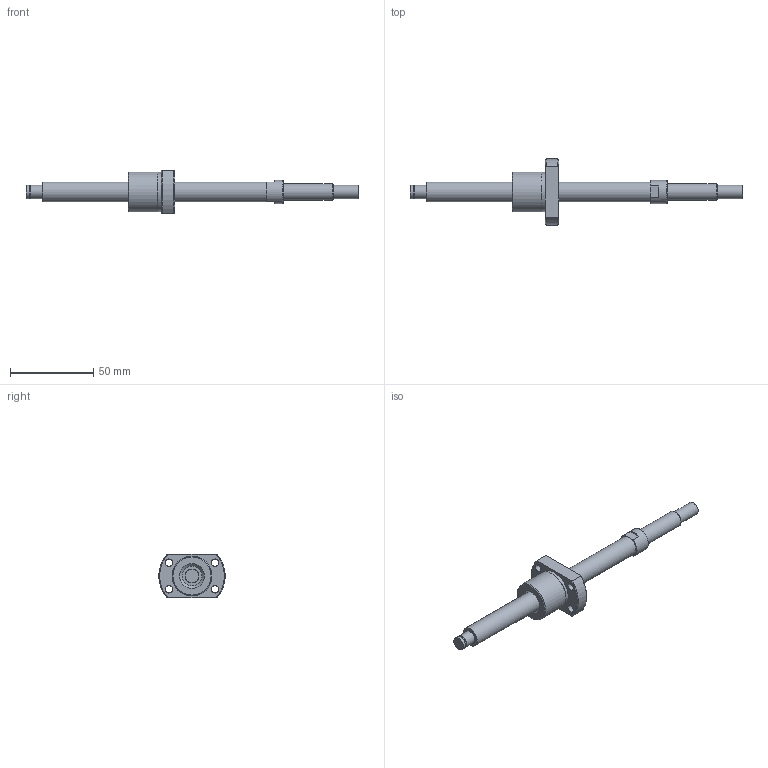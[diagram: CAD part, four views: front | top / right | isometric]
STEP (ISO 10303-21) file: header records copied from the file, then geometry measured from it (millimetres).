
FILE_DESCRIPTION(/* description */ ('STEP AP214'),/* implementation_level */ '2;1');
FILE_NAME(/* name */ 'NSGF1202Z-131R200C3-0-T-S-T-B-(51.5-S)',/* time_stamp */ '2026-08-24T20:17:01+02:00',/* author */ ('License CC BY-ND 4.0'),/* organization */ ('CADENAS'),/* preprocessor_version */ 'ST-DEVELOPER v20',/* originating_system */ 'PARTsolutions',/* authorisation */ ' ');
FILE_SCHEMA (('AUTOMOTIVE_DESIGN {1 0 10303 214 3 1 1}'));
Length unit declared in the file: millimetre
Products named in the file (3): NSGF1202Z-131R200C3-0-T-S-T-B-(51.5-S); NSG1202Z-131R20028_(T-S_T-B_2)-2; NSGF1202Z-1
Assembly tree (2 placements, depth 2):
  NSGF1202Z-131R200C3-0-T-S-T-B-(51.5-S)
    NSG1202Z-131R20028_(T-S_T-B_2)-2
    NSGF1202Z-1
Bounding box: 200 x 39.88 x 26 mm (x, y, z)
Volume: 32645.6 mm3; surface area: 12938.7 mm2
Topology: 2 solids, 2 shells, 47 faces, 99 edges, 64 vertices
Faces by surface type: plane 20, cylinder 17, cone 8, torus 2
Full cylindrical faces by diameter (mm): 4.5 x4, 7.6 x1, 8 x3, 10 x1, 12 x2, 14 x1, 17 x1, 23.7 x1, 24 x1
Entity records: 1235 total; most frequent: DIRECTION 214, CARTESIAN_POINT 208, ORIENTED_EDGE 148, AXIS2_PLACEMENT_3D 98, EDGE_LOOP 86, FACE_BOUND 86, EDGE_CURVE 74, VERTEX_POINT 60
